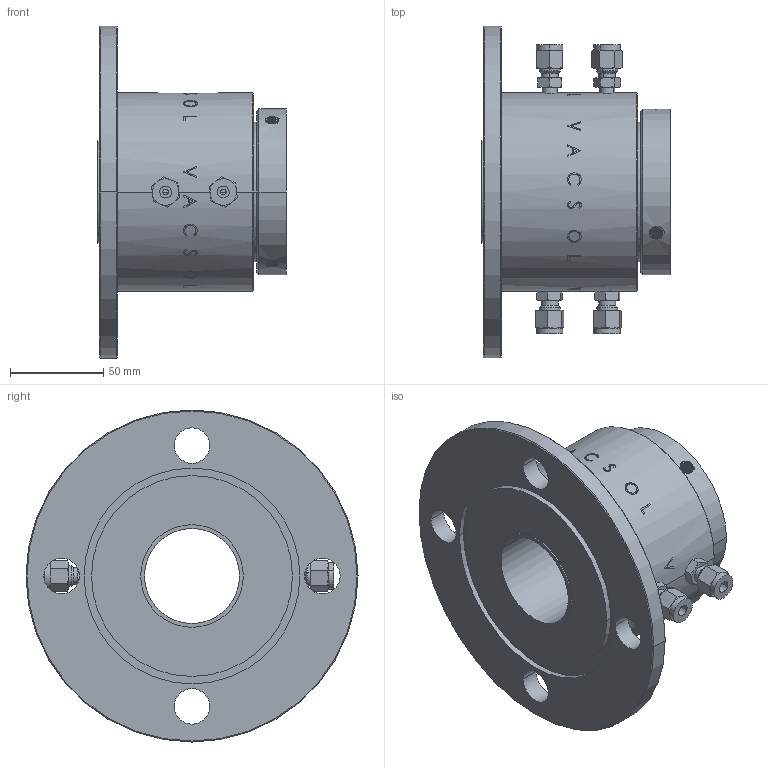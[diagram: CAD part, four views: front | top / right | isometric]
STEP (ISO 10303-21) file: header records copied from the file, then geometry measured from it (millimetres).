
FILE_DESCRIPTION(/* description */ (''),/* implementation_level */ '2;1');
FILE_NAME(/* name */ '64051.stp',/* time_stamp */ '2018-08-27T14:22:51+08:00',/* author */ (''),/* organization */ (''),/* preprocessor_version */ 'ST-DEVELOPER v16',/* originating_system */ 'SIEMENS PLM Software NX 10.0',/* authorisation */ '');
FILE_SCHEMA (('AP203_CONFIGURATION_CONTROLLED_3D_DESIGN_OF_MECHANICAL_PARTS_AND_ASSEMBLIES_MIM_LF { 1 0 10303 403 2 1 2}'));
Products named in the file (1): Admi0F60C1D93u1o
Bounding box: 100.74 x 177.8 x 177.8 mm (x, y, z)
Volume: 780670.3 mm3; surface area: 118530.6 mm2
Topology: 5 solids, 5 shells, 654 faces, 1661 edges, 1064 vertices
Faces by surface type: cylinder 241, bspline 150, cone 140, plane 123
Full cylindrical faces by diameter (mm): 50.85 x1, 55 x1
Entity records: 48779 total; most frequent: CARTESIAN_POINT 35201, ORIENTED_EDGE 3320, DIRECTION 2051, EDGE_CURVE 1660, VERTEX_POINT 1065, AXIS2_PLACEMENT_3D 817, EDGE_LOOP 727, B_SPLINE_CURVE_WITH_KNOTS 656
